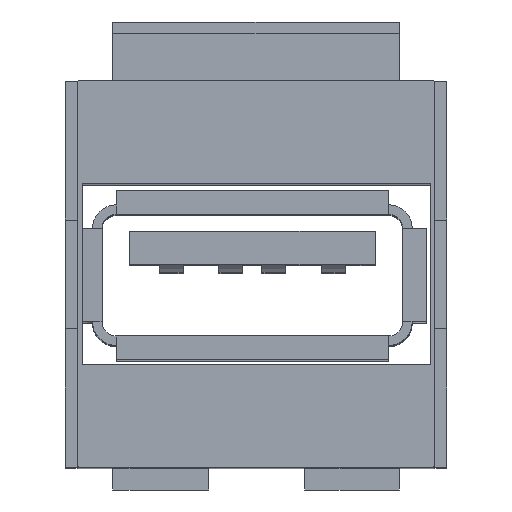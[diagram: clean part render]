
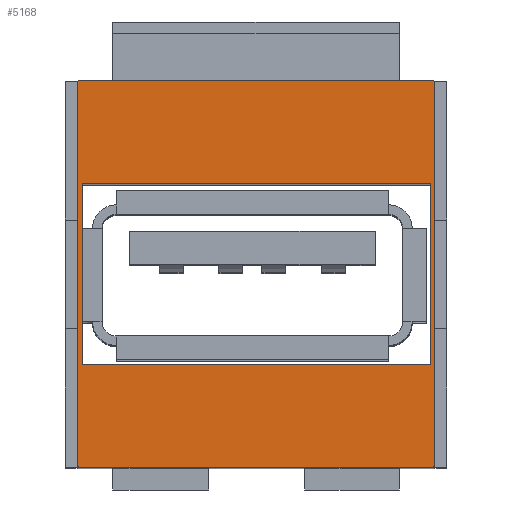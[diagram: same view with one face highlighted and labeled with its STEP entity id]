
A CAD part, top view. The second image highlights one B-rep face of the part: STEP entity #5168.
In plain terms, the highlighted planar face has unit normal (0, 0, 1).
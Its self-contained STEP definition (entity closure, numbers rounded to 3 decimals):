
#13=FACE_BOUND('',#648,.T.);
#130=PLANE('',#5516);
#375=FACE_OUTER_BOUND('',#647,.T.);
#647=EDGE_LOOP('',(#3939,#3940,#3941,#3942,#3943,#3944,#3945,#3946));
#648=EDGE_LOOP('',(#3947,#3948,#3949,#3950));
#1070=LINE('',#7769,#1661);
#1077=LINE('',#7783,#1668);
#1078=LINE('',#7787,#1669);
#1079=LINE('',#7791,#1670);
#1080=LINE('',#7795,#1671);
#1081=LINE('',#7797,#1672);
#1082=LINE('',#7799,#1673);
#1083=LINE('',#7800,#1674);
#1661=VECTOR('',#6364,16.);
#1668=VECTOR('',#6373,14.8);
#1669=VECTOR('',#6376,16.);
#1670=VECTOR('',#6379,14.8);
#1671=VECTOR('',#6382,7.569);
#1672=VECTOR('',#6383,14.6);
#1673=VECTOR('',#6384,7.569);
#1674=VECTOR('',#6385,14.6);
#2054=CIRCLE('',#5513,0.1);
#2056=CIRCLE('',#5517,0.1);
#2057=CIRCLE('',#5518,0.1);
#2058=CIRCLE('',#5519,0.1);
#2326=VERTEX_POINT('',#7759);
#2327=VERTEX_POINT('',#7760);
#2330=VERTEX_POINT('',#7768);
#2336=VERTEX_POINT('',#7782);
#2337=VERTEX_POINT('',#7784);
#2338=VERTEX_POINT('',#7786);
#2339=VERTEX_POINT('',#7788);
#2340=VERTEX_POINT('',#7790);
#2341=VERTEX_POINT('',#7793);
#2342=VERTEX_POINT('',#7794);
#2343=VERTEX_POINT('',#7796);
#2344=VERTEX_POINT('',#7798);
#2892=EDGE_CURVE('',#2326,#2327,#2054,.T.);
#2896=EDGE_CURVE('',#2327,#2330,#1070,.T.);
#2903=EDGE_CURVE('',#2336,#2326,#1077,.T.);
#2904=EDGE_CURVE('',#2337,#2336,#2056,.T.);
#2905=EDGE_CURVE('',#2338,#2337,#1078,.T.);
#2906=EDGE_CURVE('',#2339,#2338,#2057,.T.);
#2907=EDGE_CURVE('',#2340,#2339,#1079,.T.);
#2908=EDGE_CURVE('',#2330,#2340,#2058,.T.);
#2909=EDGE_CURVE('',#2341,#2342,#1080,.T.);
#2910=EDGE_CURVE('',#2342,#2343,#1081,.T.);
#2911=EDGE_CURVE('',#2343,#2344,#1082,.T.);
#2912=EDGE_CURVE('',#2344,#2341,#1083,.T.);
#3939=ORIENTED_EDGE('',*,*,#2892,.F.);
#3940=ORIENTED_EDGE('',*,*,#2903,.F.);
#3941=ORIENTED_EDGE('',*,*,#2904,.F.);
#3942=ORIENTED_EDGE('',*,*,#2905,.F.);
#3943=ORIENTED_EDGE('',*,*,#2906,.F.);
#3944=ORIENTED_EDGE('',*,*,#2907,.F.);
#3945=ORIENTED_EDGE('',*,*,#2908,.F.);
#3946=ORIENTED_EDGE('',*,*,#2896,.F.);
#3947=ORIENTED_EDGE('',*,*,#2909,.T.);
#3948=ORIENTED_EDGE('',*,*,#2910,.T.);
#3949=ORIENTED_EDGE('',*,*,#2911,.T.);
#3950=ORIENTED_EDGE('',*,*,#2912,.T.);
#5168=ADVANCED_FACE('',(#375,#13),#130,.T.);
#5513=AXIS2_PLACEMENT_3D('',#7761,#6356,#6357);
#5516=AXIS2_PLACEMENT_3D('',#7781,#6371,#6372);
#5517=AXIS2_PLACEMENT_3D('',#7785,#6374,#6375);
#5518=AXIS2_PLACEMENT_3D('',#7789,#6377,#6378);
#5519=AXIS2_PLACEMENT_3D('',#7792,#6380,#6381);
#6356=DIRECTION('center_axis',(0.,0.,
-1.));
#6357=DIRECTION('ref_axis',(-0.707,-0.707,0.));
#6364=DIRECTION('',(0.,1.,0.));
#6371=DIRECTION('center_axis',(0.,0.,
1.));
#6372=DIRECTION('ref_axis',(1.,0.,0.));
#6373=DIRECTION('',(-1.,0.,0.));
#6374=DIRECTION('center_axis',(0.,0.,
-1.));
#6375=DIRECTION('ref_axis',(0.707,-0.707,0.));
#6376=DIRECTION('',(0.,-1.,0.));
#6377=DIRECTION('center_axis',(0.,0.,
-1.));
#6378=DIRECTION('ref_axis',(0.707,0.707,0.));
#6379=DIRECTION('',(1.,0.,0.));
#6380=DIRECTION('center_axis',(0.,0.,
-1.));
#6381=DIRECTION('ref_axis',(-0.707,0.707,0.));
#6382=DIRECTION('',(0.,1.,0.));
#6383=DIRECTION('',(1.,0.,0.));
#6384=DIRECTION('',(0.,-1.,0.));
#6385=DIRECTION('',(-1.,0.,0.));
#7759=CARTESIAN_POINT('',(-9.136,-22.024,30.9));
#7760=CARTESIAN_POINT('',(-9.236,-21.924,30.9));
#7761=CARTESIAN_POINT('Origin',(-9.136,-21.924,30.9));
#7768=CARTESIAN_POINT('',(-9.236,-5.924,30.9));
#7769=CARTESIAN_POINT('',(-9.236,-5.824,30.9));
#7781=CARTESIAN_POINT('Origin',(-1.736,-13.924,30.9));
#7782=CARTESIAN_POINT('',(5.664,-22.024,30.9));
#7783=CARTESIAN_POINT('',(-9.236,-22.024,30.9));
#7784=CARTESIAN_POINT('',(5.764,-21.924,30.9));
#7785=CARTESIAN_POINT('Origin',(5.664,-21.924,30.9));
#7786=CARTESIAN_POINT('',(5.764,-5.924,30.9));
#7787=CARTESIAN_POINT('',(5.764,-22.024,30.9));
#7788=CARTESIAN_POINT('',(5.664,-5.824,30.9));
#7789=CARTESIAN_POINT('Origin',(5.664,-5.924,30.9));
#7790=CARTESIAN_POINT('',(-9.136,-5.824,30.9));
#7791=CARTESIAN_POINT('',(5.764,-5.824,30.9));
#7792=CARTESIAN_POINT('Origin',(-9.136,-5.924,30.9));
#7793=CARTESIAN_POINT('',(-9.005,-17.708,30.9));
#7794=CARTESIAN_POINT('',(-9.005,-10.14,30.9));
#7795=CARTESIAN_POINT('',(-9.005,-15.816,30.9));
#7796=CARTESIAN_POINT('',(5.595,-10.14,30.9));
#7797=CARTESIAN_POINT('',(-5.371,-10.14,30.9));
#7798=CARTESIAN_POINT('',(5.595,-17.708,30.9));
#7799=CARTESIAN_POINT('',(5.595,-12.032,30.9));
#7800=CARTESIAN_POINT('',(1.929,-17.708,30.9));
